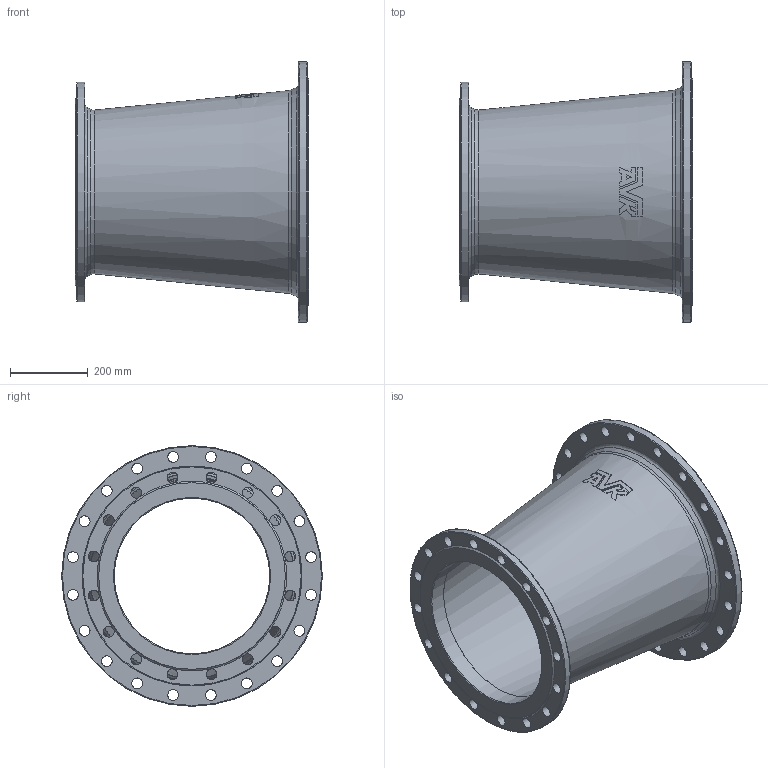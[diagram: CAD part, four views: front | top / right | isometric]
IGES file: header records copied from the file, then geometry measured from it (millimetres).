
Start section: SolidWorks IGES file using analytic representation for surfaces
Global section: file name: \\avksan2\techshare\PBM outline export from Enovia\O_712_2210_DN500_DN400_0X_REV01.igs; native system: SolidWorks 2022; preprocessor: SolidWorks 2022; author: pbm; date: 240808.092916; units: millimetre
Bounding box: 600 x 670 x 670 mm (x, y, z)
Surface area: 2279074.8 mm2 (no closed solid volume)
Topology: 0 solids, 0 shells, 121 faces, 616 edges, 558 vertices
Faces by surface type: revolution 64, bspline 57
